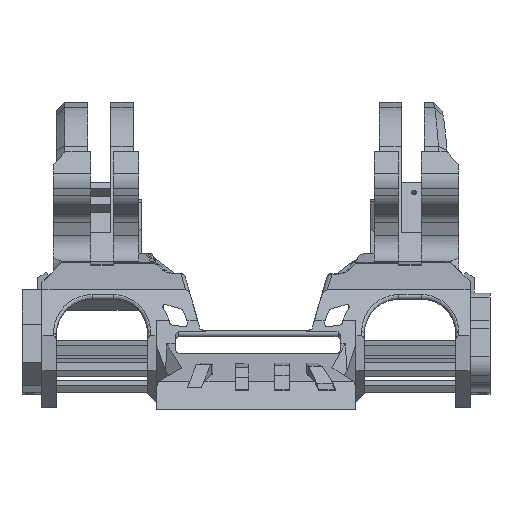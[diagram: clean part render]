
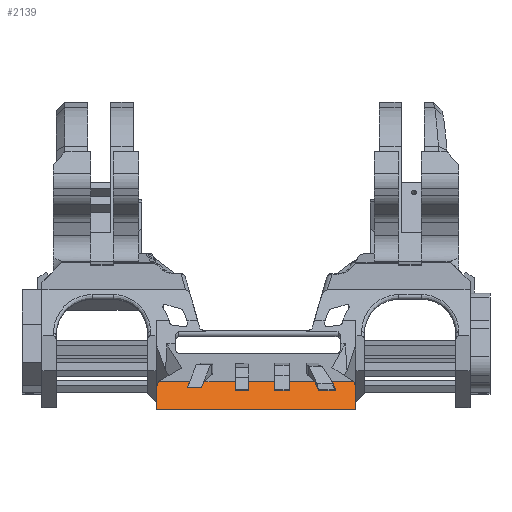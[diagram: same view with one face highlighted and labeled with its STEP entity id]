
A CAD part, front view. The second image highlights one B-rep face of the part: STEP entity #2139.
In plain terms, the highlighted planar face has unit normal (0, -0.896, 0.444).
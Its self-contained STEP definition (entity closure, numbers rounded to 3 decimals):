
#262=FACE_OUTER_BOUND('',#4280,.T.);
#2139=ADVANCED_FACE('',(#262),#3127,.F.);
#3127=PLANE('',#21424);
#4280=EDGE_LOOP('',(#6363,#6364,#6365,#6366,#6367,#6368,#6369,#6370,#6371,
#6372,#6373,#6374,#6375,#6376,#6377,#6378,#6379,#6380,#6381,#6382,#6383,
#6384));
#6363=ORIENTED_EDGE('',*,*,#14425,.T.);
#6364=ORIENTED_EDGE('',*,*,#14426,.T.);
#6365=ORIENTED_EDGE('',*,*,#14406,.T.);
#6366=ORIENTED_EDGE('',*,*,#14427,.F.);
#6367=ORIENTED_EDGE('',*,*,#14428,.F.);
#6368=ORIENTED_EDGE('',*,*,#14429,.F.);
#6369=ORIENTED_EDGE('',*,*,#14398,.T.);
#6370=ORIENTED_EDGE('',*,*,#14430,.F.);
#6371=ORIENTED_EDGE('',*,*,#14431,.T.);
#6372=ORIENTED_EDGE('',*,*,#14432,.F.);
#6373=ORIENTED_EDGE('',*,*,#14433,.F.);
#6374=ORIENTED_EDGE('',*,*,#14434,.T.);
#6375=ORIENTED_EDGE('',*,*,#14422,.T.);
#6376=ORIENTED_EDGE('',*,*,#14435,.F.);
#6377=ORIENTED_EDGE('',*,*,#14436,.F.);
#6378=ORIENTED_EDGE('',*,*,#14437,.F.);
#6379=ORIENTED_EDGE('',*,*,#14414,.T.);
#6380=ORIENTED_EDGE('',*,*,#14438,.F.);
#6381=ORIENTED_EDGE('',*,*,#14439,.F.);
#6382=ORIENTED_EDGE('',*,*,#14440,.F.);
#6383=ORIENTED_EDGE('',*,*,#14410,.T.);
#6384=ORIENTED_EDGE('',*,*,#14441,.T.);
#12242=VERTEX_POINT('',#30310);
#12243=VERTEX_POINT('',#30312);
#12250=VERTEX_POINT('',#30326);
#12251=VERTEX_POINT('',#30328);
#12254=VERTEX_POINT('',#30334);
#12255=VERTEX_POINT('',#30336);
#12258=VERTEX_POINT('',#30342);
#12259=VERTEX_POINT('',#30344);
#12266=VERTEX_POINT('',#30358);
#12267=VERTEX_POINT('',#30360);
#12269=VERTEX_POINT('',#30366);
#12270=VERTEX_POINT('',#30367);
#12271=VERTEX_POINT('',#30370);
#12272=VERTEX_POINT('',#30372);
#12273=VERTEX_POINT('',#30375);
#12274=VERTEX_POINT('',#30377);
#12275=VERTEX_POINT('',#30379);
#12276=VERTEX_POINT('',#30381);
#12277=VERTEX_POINT('',#30384);
#12278=VERTEX_POINT('',#30386);
#12279=VERTEX_POINT('',#30389);
#12280=VERTEX_POINT('',#30391);
#14398=EDGE_CURVE('',#12243,#12242,#17190,.T.);
#14406=EDGE_CURVE('',#12251,#12250,#17196,.T.);
#14410=EDGE_CURVE('',#12255,#12254,#17200,.T.);
#14414=EDGE_CURVE('',#12259,#12258,#17204,.T.);
#14422=EDGE_CURVE('',#12267,#12266,#17210,.T.);
#14425=EDGE_CURVE('',#12269,#12270,#17213,.T.);
#14426=EDGE_CURVE('',#12270,#12251,#17214,.T.);
#14427=EDGE_CURVE('',#12271,#12250,#17215,.T.);
#14428=EDGE_CURVE('',#12272,#12271,#17216,.T.);
#14429=EDGE_CURVE('',#12243,#12272,#17217,.T.);
#14430=EDGE_CURVE('',#12273,#12242,#17218,.T.);
#14431=EDGE_CURVE('',#12273,#12274,#17219,.T.);
#14432=EDGE_CURVE('',#12275,#12274,#17220,.T.);
#14433=EDGE_CURVE('',#12276,#12275,#17221,.T.);
#14434=EDGE_CURVE('',#12276,#12267,#17222,.T.);
#14435=EDGE_CURVE('',#12277,#12266,#17223,.T.);
#14436=EDGE_CURVE('',#12278,#12277,#17224,.T.);
#14437=EDGE_CURVE('',#12259,#12278,#17225,.T.);
#14438=EDGE_CURVE('',#12279,#12258,#17226,.T.);
#14439=EDGE_CURVE('',#12280,#12279,#17227,.T.);
#14440=EDGE_CURVE('',#12255,#12280,#17228,.T.);
#14441=EDGE_CURVE('',#12254,#12269,#17229,.T.);
#17190=LINE('',#30311,#19447);
#17196=LINE('',#30327,#19453);
#17200=LINE('',#30335,#19457);
#17204=LINE('',#30343,#19461);
#17210=LINE('',#30359,#19467);
#17213=LINE('',#30365,#19470);
#17214=LINE('',#30368,#19471);
#17215=LINE('',#30369,#19472);
#17216=LINE('',#30371,#19473);
#17217=LINE('',#30373,#19474);
#17218=LINE('',#30374,#19475);
#17219=LINE('',#30376,#19476);
#17220=LINE('',#30378,#19477);
#17221=LINE('',#30380,#19478);
#17222=LINE('',#30382,#19479);
#17223=LINE('',#30383,#19480);
#17224=LINE('',#30385,#19481);
#17225=LINE('',#30387,#19482);
#17226=LINE('',#30388,#19483);
#17227=LINE('',#30390,#19484);
#17228=LINE('',#30392,#19485);
#17229=LINE('',#30393,#19486);
#19447=VECTOR('',#23917,1.);
#19453=VECTOR('',#23927,1.);
#19457=VECTOR('',#23931,1.);
#19461=VECTOR('',#23935,1.);
#19467=VECTOR('',#23945,1.);
#19470=VECTOR('',#23950,1.);
#19471=VECTOR('',#23951,1.);
#19472=VECTOR('',#23952,1.);
#19473=VECTOR('',#23953,1.);
#19474=VECTOR('',#23954,1.);
#19475=VECTOR('',#23955,1.);
#19476=VECTOR('',#23956,1.);
#19477=VECTOR('',#23957,1.);
#19478=VECTOR('',#23958,1.);
#19479=VECTOR('',#23959,1.);
#19480=VECTOR('',#23960,1.);
#19481=VECTOR('',#23961,1.);
#19482=VECTOR('',#23962,1.);
#19483=VECTOR('',#23963,1.);
#19484=VECTOR('',#23964,1.);
#19485=VECTOR('',#23965,1.);
#19486=VECTOR('',#23966,1.);
#21424=AXIS2_PLACEMENT_3D('',#30394,#23967,#23968);
#23917=DIRECTION('',(-1.,0.,0.));
#23927=DIRECTION('',(-1.,0.,0.));
#23931=DIRECTION('',(-1.,0.,0.));
#23935=DIRECTION('',(-1.,0.,0.));
#23945=DIRECTION('',(-1.,0.,0.));
#23950=DIRECTION('',(-1.,0.,0.));
#23951=DIRECTION('',(0.,0.444,0.896));
#23952=DIRECTION('',(0.332,0.419,0.845));
#23953=DIRECTION('',(1.,0.,0.));
#23954=DIRECTION('',(-0.332,-0.419,-0.845));
#23955=DIRECTION('',(0.303,0.423,0.854));
#23956=DIRECTION('',(0.,-0.444,-0.896));
#23957=DIRECTION('',(-1.,0.,0.));
#23958=DIRECTION('',(0.,-0.444,-0.896));
#23959=DIRECTION('',(-0.285,0.425,0.859));
#23960=DIRECTION('',(-0.439,0.399,0.805));
#23961=DIRECTION('',(1.,0.,0.));
#23962=DIRECTION('',(0.332,-0.419,-0.845));
#23963=DIRECTION('',(0.,0.444,0.896));
#23964=DIRECTION('',(1.,0.,0.));
#23965=DIRECTION('',(0.,-0.444,-0.896));
#23966=DIRECTION('',(0.,-0.444,-0.896));
#23967=DIRECTION('',(0.,0.896,-0.444));
#23968=DIRECTION('',(0.,0.444,0.896));
#30310=CARTESIAN_POINT('',(-34.108,-105.156,-28.803));
#30311=CARTESIAN_POINT('',(35.,-105.156,-28.803));
#30312=CARTESIAN_POINT('',(-23.204,-105.156,-28.803));
#30326=CARTESIAN_POINT('',(-18.257,-105.156,-28.803));
#30327=CARTESIAN_POINT('',(35.,-105.156,-28.803));
#30328=CARTESIAN_POINT('',(-7.141,-105.156,-28.803));
#30334=CARTESIAN_POINT('',(-2.522,-105.156,-28.803));
#30335=CARTESIAN_POINT('',(35.,-105.156,-28.803));
#30336=CARTESIAN_POINT('',(6.601,-105.156,-28.803));
#30342=CARTESIAN_POINT('',(11.601,-105.156,-28.803));
#30343=CARTESIAN_POINT('',(35.,-105.156,-28.803));
#30344=CARTESIAN_POINT('',(20.589,-105.156,-28.803));
#30358=CARTESIAN_POINT('',(26.029,-105.156,-28.803));
#30359=CARTESIAN_POINT('',(35.,-105.156,-28.803));
#30360=CARTESIAN_POINT('',(34.288,-105.156,-28.803));
#30365=CARTESIAN_POINT('',(35.,-106.714,-31.948));
#30366=CARTESIAN_POINT('',(-2.522,-106.714,-31.948));
#30367=CARTESIAN_POINT('',(-7.141,-106.714,-31.948));
#30368=CARTESIAN_POINT('',(-7.141,-105.156,-28.803));
#30369=CARTESIAN_POINT('',(-12.379,-97.75,-13.848));
#30370=CARTESIAN_POINT('',(-19.084,-106.199,-30.908));
#30371=CARTESIAN_POINT('',(35.,-106.199,-30.908));
#30372=CARTESIAN_POINT('',(-24.031,-106.199,-30.908));
#30373=CARTESIAN_POINT('',(-16.78,-97.063,-12.459));
#30374=CARTESIAN_POINT('',(-27.78,-96.311,-10.941));
#30375=CARTESIAN_POINT('',(-35.,-106.403,-31.32));
#30376=CARTESIAN_POINT('',(-35.,-105.156,-28.803));
#30377=CARTESIAN_POINT('',(-35.,-110.072,-38.729));
#30378=CARTESIAN_POINT('',(35.,-110.072,-38.729));
#30379=CARTESIAN_POINT('',(35.,-110.072,-38.729));
#30380=CARTESIAN_POINT('',(35.,-105.156,-28.803));
#30381=CARTESIAN_POINT('',(35.,-106.221,-30.952));
#30382=CARTESIAN_POINT('',(34.346,-105.243,-28.977));
#30383=CARTESIAN_POINT('',(27.76,-106.728,-31.976));
#30384=CARTESIAN_POINT('',(27.821,-106.783,-32.087));
#30385=CARTESIAN_POINT('',(35.,-106.783,-32.087));
#30386=CARTESIAN_POINT('',(21.879,-106.783,-32.087));
#30387=CARTESIAN_POINT('',(22.179,-107.161,-32.85));
#30388=CARTESIAN_POINT('',(11.601,-105.156,-28.803));
#30389=CARTESIAN_POINT('',(11.601,-106.714,-31.948));
#30390=CARTESIAN_POINT('',(35.,-106.714,-31.948));
#30391=CARTESIAN_POINT('',(6.601,-106.714,-31.948));
#30392=CARTESIAN_POINT('',(6.601,-105.156,-28.803));
#30393=CARTESIAN_POINT('',(-2.522,-105.156,-28.803));
#30394=CARTESIAN_POINT('',(35.,-105.156,-28.803));
